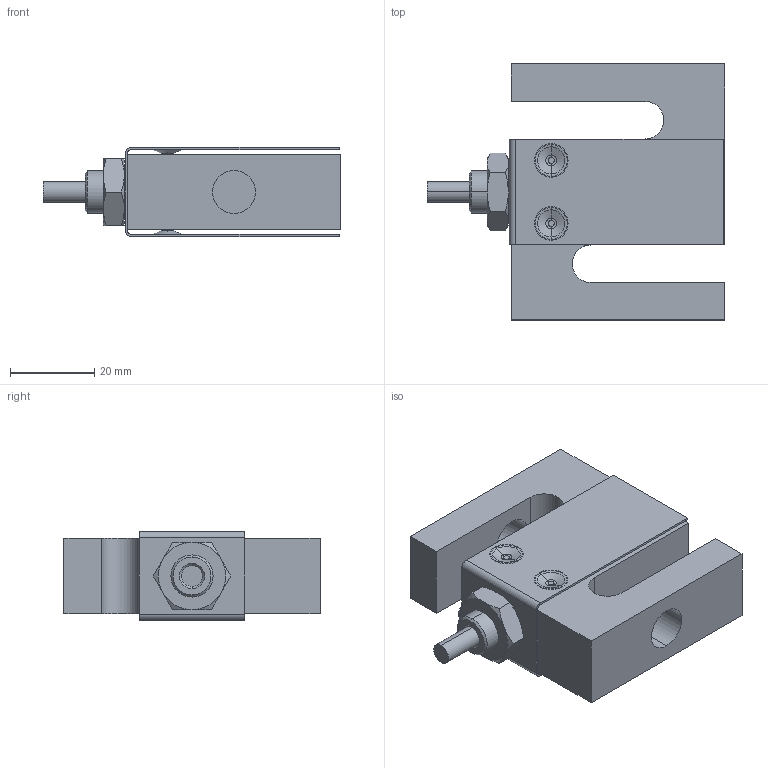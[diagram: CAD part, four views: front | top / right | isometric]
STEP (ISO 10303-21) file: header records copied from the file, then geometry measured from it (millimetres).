
FILE_DESCRIPTION (( 'STEP AP214' ), '1' );
FILE_NAME ('B3G-250kg assy.STEP', '2012-01-26T16:05:17', ( 'Gebruiker' ), ( 'Microsoft' ), 'SwSTEP 2.0', 'SolidWorks 2011', '' );
FILE_SCHEMA (( 'AUTOMOTIVE_DESIGN' ));
Length unit declared in the file: millimetre
Products named in the file (9): hex thin nut chamfered gradeab_iso_Hexagon Thin Nut ISO - 4035 - M10 - S; B3G conduit adaptor; B3G cable; B3G-250kg gage potting; B3G-250kg cover; Cover 250kg; Cover part indrukking; B3G-250kg element; B3G-250kg assy
Assembly tree (11 placements, depth 3):
  B3G-250kg assy
    B3G conduit adaptor
    B3G-250kg gage potting
    B3G-250kg element
    hex thin nut chamfered gradeab_iso_Hexagon Thin Nut ISO - 4035 - M10 - S
    B3G cable
    B3G-250kg cover
      Cover 250kg
      Cover part indrukking  x4
Bounding box: 70.8 x 60.96 x 21.2 mm (x, y, z)
Volume: 46556.1 mm3; surface area: 23511.1 mm2
Topology: 10 solids, 10 shells, 215 faces, 477 edges, 289 vertices
Faces by surface type: plane 67, cone 59, cylinder 57, torus 32
Entity records: 5176 total; most frequent: CARTESIAN_POINT 928, DIRECTION 866, ORIENTED_EDGE 750, EDGE_CURVE 375, AXIS2_PLACEMENT_3D 343, VERTEX_POINT 229, EDGE_LOOP 184, VECTOR 180
